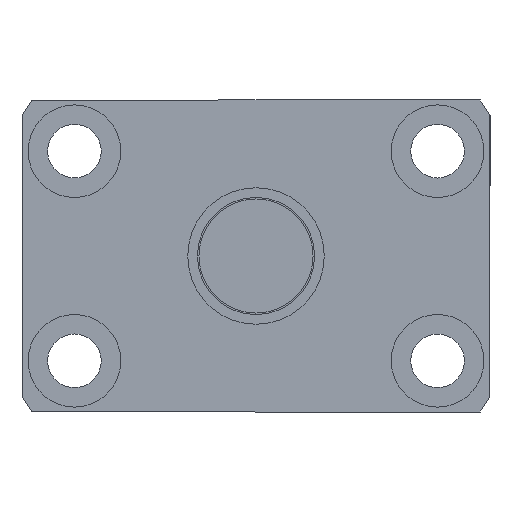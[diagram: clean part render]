
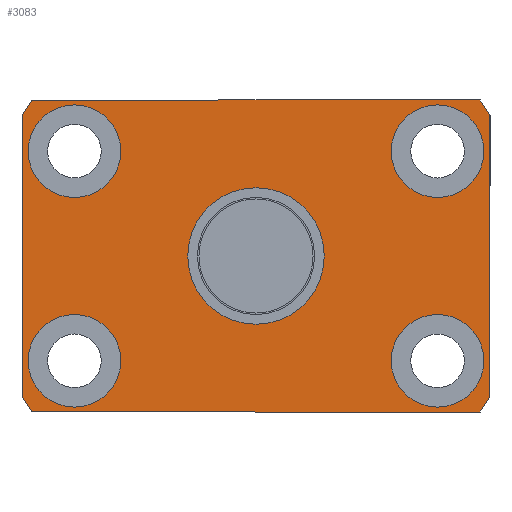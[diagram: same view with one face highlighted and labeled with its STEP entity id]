
A CAD part, left-side view. The second image highlights one B-rep face of the part: STEP entity #3083.
In plain terms, the highlighted planar face has unit normal (-1, 0, 0).
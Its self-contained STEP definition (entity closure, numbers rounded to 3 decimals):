
#479=CARTESIAN_POINT('',(171.616,23.37,-10.75));
#480=VERTEX_POINT('',#479);
#481=CARTESIAN_POINT('',(171.616,18.62,-10.75));
#482=DIRECTION('',(1.0,0.0,0.0));
#483=DIRECTION('',(0.0,1.0,0.0));
#484=AXIS2_PLACEMENT_3D('',#481,#482,#483);
#485=CIRCLE('',#484,4.75);
#486=EDGE_CURVE('',#480,#480,#485,.T.);
#547=CARTESIAN_POINT('',(171.616,-13.87,10.75));
#548=VERTEX_POINT('',#547);
#549=CARTESIAN_POINT('',(171.616,-18.62,10.75));
#550=DIRECTION('',(1.0,0.0,0.0));
#551=DIRECTION('',(0.0,1.0,0.0));
#552=AXIS2_PLACEMENT_3D('',#549,#550,#551);
#553=CIRCLE('',#552,4.75);
#554=EDGE_CURVE('',#548,#548,#553,.T.);
#615=CARTESIAN_POINT('',(171.616,23.37,10.75));
#616=VERTEX_POINT('',#615);
#617=CARTESIAN_POINT('',(171.616,18.62,10.75));
#618=DIRECTION('',(1.0,0.0,0.0));
#619=DIRECTION('',(0.0,1.0,0.0));
#620=AXIS2_PLACEMENT_3D('',#617,#618,#619);
#621=CIRCLE('',#620,4.75);
#622=EDGE_CURVE('',#616,#616,#621,.T.);
#683=CARTESIAN_POINT('',(171.616,-13.87,-10.75));
#684=VERTEX_POINT('',#683);
#685=CARTESIAN_POINT('',(171.616,-18.62,-10.75));
#686=DIRECTION('',(1.0,0.0,0.0));
#687=DIRECTION('',(0.0,1.0,0.0));
#688=AXIS2_PLACEMENT_3D('',#685,#686,#687);
#689=CIRCLE('',#688,4.75);
#690=EDGE_CURVE('',#684,#684,#689,.T.);
#2696=CARTESIAN_POINT('',(171.616,-24.,14.422));
#2697=VERTEX_POINT('',#2696);
#2704=CARTESIAN_POINT('',(171.616,-24.,-14.422));
#2705=VERTEX_POINT('',#2704);
#2706=CARTESIAN_POINT('',(171.616,-24.,14.422));
#2707=DIRECTION('',(0.0,0.0,-1.0));
#2708=VECTOR('',#2707,28.844);
#2709=LINE('',#2706,#2708);
#2710=EDGE_CURVE('',#2697,#2705,#2709,.T.);
#2735=CARTESIAN_POINT('',(171.616,-22.978,16.));
#2736=VERTEX_POINT('',#2735);
#2743=CARTESIAN_POINT('',(171.616,0.,0.0));
#2744=DIRECTION('',(1.0,0.0,0.0));
#2745=DIRECTION('',(0.0,1.0,0.0));
#2746=AXIS2_PLACEMENT_3D('',#2743,#2744,#2745);
#2747=CIRCLE('',#2746,28.);
#2748=EDGE_CURVE('',#2736,#2697,#2747,.T.);
#2767=CARTESIAN_POINT('',(171.616,22.978,16.0));
#2768=VERTEX_POINT('',#2767);
#2775=CARTESIAN_POINT('',(171.616,22.978,16.0));
#2776=DIRECTION('',(0.0,-1.0,0.0));
#2777=VECTOR('',#2776,45.957);
#2778=LINE('',#2775,#2777);
#2779=EDGE_CURVE('',#2768,#2736,#2778,.T.);
#2800=CARTESIAN_POINT('',(171.616,-22.978,-16.));
#2801=VERTEX_POINT('',#2800);
#2808=CARTESIAN_POINT('',(171.616,22.978,-16.));
#2809=VERTEX_POINT('',#2808);
#2810=CARTESIAN_POINT('',(171.616,-22.978,-16.));
#2811=DIRECTION('',(0.0,1.0,0.0));
#2812=VECTOR('',#2811,45.957);
#2813=LINE('',#2810,#2812);
#2814=EDGE_CURVE('',#2801,#2809,#2813,.T.);
#2839=CARTESIAN_POINT('',(171.616,24.,14.422));
#2840=VERTEX_POINT('',#2839);
#2847=CARTESIAN_POINT('',(171.616,0.,0.0));
#2848=DIRECTION('',(1.0,0.0,0.0));
#2849=DIRECTION('',(0.0,1.0,0.0));
#2850=AXIS2_PLACEMENT_3D('',#2847,#2848,#2849);
#2851=CIRCLE('',#2850,28.);
#2852=EDGE_CURVE('',#2840,#2768,#2851,.T.);
#2871=CARTESIAN_POINT('',(171.616,24.,-14.422));
#2872=VERTEX_POINT('',#2871);
#2879=CARTESIAN_POINT('',(171.616,24.,-14.422));
#2880=DIRECTION('',(0.0,0.0,1.0));
#2881=VECTOR('',#2880,28.844);
#2882=LINE('',#2879,#2881);
#2883=EDGE_CURVE('',#2872,#2840,#2882,.T.);
#2902=CARTESIAN_POINT('',(171.616,0.,0.0));
#2903=DIRECTION('',(1.0,0.0,0.0));
#2904=DIRECTION('',(0.0,1.0,0.0));
#2905=AXIS2_PLACEMENT_3D('',#2902,#2903,#2904);
#2906=CIRCLE('',#2905,28.);
#2907=EDGE_CURVE('',#2809,#2872,#2906,.T.);
#2926=CARTESIAN_POINT('',(171.616,0.,0.0));
#2927=DIRECTION('',(1.0,0.0,0.0));
#2928=DIRECTION('',(0.0,1.0,0.0));
#2929=AXIS2_PLACEMENT_3D('',#2926,#2927,#2928);
#2930=CIRCLE('',#2929,28.);
#2931=EDGE_CURVE('',#2705,#2801,#2930,.T.);
#2942=CARTESIAN_POINT('',(171.616,7.,0.0));
#2943=VERTEX_POINT('',#2942);
#2944=CARTESIAN_POINT('',(171.616,0.,0.0));
#2945=DIRECTION('',(1.0,0.0,0.0));
#2946=DIRECTION('',(0.0,1.0,0.0));
#2947=AXIS2_PLACEMENT_3D('',#2944,#2945,#2946);
#2948=CIRCLE('',#2947,7.);
#2949=EDGE_CURVE('',#2943,#2943,#2948,.T.);
#3053=CARTESIAN_POINT('',(171.616,11.5,0.0));
#3054=DIRECTION('',(-1.0,0.0,0.0));
#3055=DIRECTION('',(0.0,0.0,1.0));
#3056=AXIS2_PLACEMENT_3D('',#3053,#3054,#3055);
#3057=PLANE('',#3056);
#3058=ORIENTED_EDGE('',*,*,#2814,.F.);
#3059=ORIENTED_EDGE('',*,*,#2931,.F.);
#3060=ORIENTED_EDGE('',*,*,#2710,.F.);
#3061=ORIENTED_EDGE('',*,*,#2748,.F.);
#3062=ORIENTED_EDGE('',*,*,#2779,.F.);
#3063=ORIENTED_EDGE('',*,*,#2852,.F.);
#3064=ORIENTED_EDGE('',*,*,#2883,.F.);
#3065=ORIENTED_EDGE('',*,*,#2907,.F.);
#3066=EDGE_LOOP('',(#3058,#3059,#3060,#3061,#3062,#3063,#3064,#3065));
#3067=FACE_OUTER_BOUND('',#3066,.T.);
#3068=ORIENTED_EDGE('',*,*,#486,.T.);
#3069=EDGE_LOOP('',(#3068));
#3070=FACE_BOUND('',#3069,.T.);
#3071=ORIENTED_EDGE('',*,*,#554,.T.);
#3072=EDGE_LOOP('',(#3071));
#3073=FACE_BOUND('',#3072,.T.);
#3074=ORIENTED_EDGE('',*,*,#622,.T.);
#3075=EDGE_LOOP('',(#3074));
#3076=FACE_BOUND('',#3075,.T.);
#3077=ORIENTED_EDGE('',*,*,#690,.T.);
#3078=EDGE_LOOP('',(#3077));
#3079=FACE_BOUND('',#3078,.T.);
#3080=ORIENTED_EDGE('',*,*,#2949,.T.);
#3081=EDGE_LOOP('',(#3080));
#3082=FACE_BOUND('',#3081,.T.);
#3083=ADVANCED_FACE('',(#3067,#3070,#3073,#3076,#3079,#3082),#3057,.T.);
